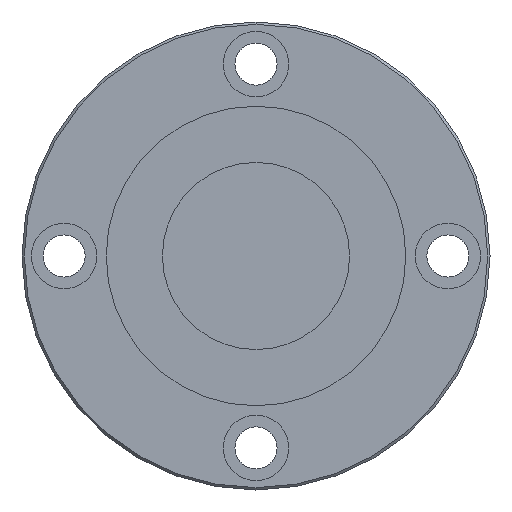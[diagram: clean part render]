
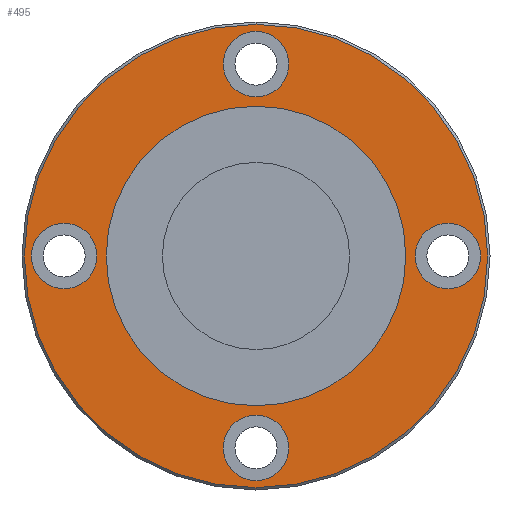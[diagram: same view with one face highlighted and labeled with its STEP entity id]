
A CAD part, left-side view. The second image highlights one B-rep face of the part: STEP entity #495.
In plain terms, the highlighted planar face has unit normal (-1, 0, 0).
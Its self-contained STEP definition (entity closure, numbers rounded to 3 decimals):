
#7 = ORIENTED_EDGE ( 'NONE', *, *, #1291, .F. ) ;
#46 = CIRCLE ( 'NONE', #1625, 32. ) ;
#73 = FACE_BOUND ( 'NONE', #1037, .T. ) ;
#77 = CIRCLE ( 'NONE', #1506, 7. ) ;
#123 = CARTESIAN_POINT ( 'NONE',  ( 0., 50., 0. ) ) ;
#192 = EDGE_CURVE ( 'NONE', #196, #490, #622, .T. ) ;
#196 = VERTEX_POINT ( 'NONE', #2513 ) ;
#224 = EDGE_CURVE ( 'NONE', #1407, #1573, #261, .T. ) ;
#252 = VERTEX_POINT ( 'NONE', #1559 ) ;
#261 = CIRCLE ( 'NONE', #1173, 7. ) ;
#282 = VERTEX_POINT ( 'NONE', #803 ) ;
#294 = ORIENTED_EDGE ( 'NONE', *, *, #1214, .F. ) ;
#304 = ORIENTED_EDGE ( 'NONE', *, *, #224, .F. ) ;
#330 = CARTESIAN_POINT ( 'NONE',  ( 0., 41., 0. ) ) ;
#370 = CARTESIAN_POINT ( 'NONE',  ( 0., 0., -41. ) ) ;
#407 = CARTESIAN_POINT ( 'NONE',  ( 0., 0., 49.5 ) ) ;
#414 = DIRECTION ( 'NONE',  ( 0., 1., 0. ) ) ;
#446 = DIRECTION ( 'NONE',  ( 0., 0., -1. ) ) ;
#472 = AXIS2_PLACEMENT_3D ( 'NONE', #2401, #1219, #414 ) ;
#490 = VERTEX_POINT ( 'NONE', #1292 ) ;
#495 = ADVANCED_FACE ( 'NONE', ( #692, #869, #1476, #1829, #73, #858 ), #1632, .F. ) ;
#508 = EDGE_CURVE ( 'NONE', #1590, #282, #834, .T. ) ;
#510 = CARTESIAN_POINT ( 'NONE',  ( 0., 0., 0. ) ) ;
#517 = CARTESIAN_POINT ( 'NONE',  ( 0., -41., 0. ) ) ;
#539 = DIRECTION ( 'NONE',  ( 0., -1., 0. ) ) ;
#554 = AXIS2_PLACEMENT_3D ( 'NONE', #517, #1273, #2103 ) ;
#565 = CARTESIAN_POINT ( 'NONE',  ( 0., 0., 0. ) ) ;
#589 = DIRECTION ( 'NONE',  ( -1., 0., 0. ) ) ;
#622 = CIRCLE ( 'NONE', #754, 32. ) ;
#655 = DIRECTION ( 'NONE',  ( -1., 0., 0. ) ) ;
#680 = CARTESIAN_POINT ( 'NONE',  ( 0., 0., -34. ) ) ;
#685 = DIRECTION ( 'NONE',  ( 0., 0., 1. ) ) ;
#692 = FACE_OUTER_BOUND ( 'NONE', #1740, .T. ) ;
#743 = ORIENTED_EDGE ( 'NONE', *, *, #1396, .F. ) ;
#754 = AXIS2_PLACEMENT_3D ( 'NONE', #510, #1159, #1491 ) ;
#763 = DIRECTION ( 'NONE',  ( 0., 1., 0. ) ) ;
#791 = DIRECTION ( 'NONE',  ( 0., -1., 0. ) ) ;
#803 = CARTESIAN_POINT ( 'NONE',  ( 0., 0., -49.5 ) ) ;
#822 = DIRECTION ( 'NONE',  ( 0., 0., -1. ) ) ;
#834 = CIRCLE ( 'NONE', #2278, 49.5 ) ;
#852 = ORIENTED_EDGE ( 'NONE', *, *, #1998, .F. ) ;
#858 = FACE_BOUND ( 'NONE', #2502, .T. ) ;
#868 = EDGE_CURVE ( 'NONE', #1855, #1177, #77, .T. ) ;
#869 = FACE_BOUND ( 'NONE', #2465, .T. ) ;
#894 = AXIS2_PLACEMENT_3D ( 'NONE', #1456, #2256, #1863 ) ;
#921 = DIRECTION ( 'NONE',  ( -1., 0., 0. ) ) ;
#943 = VERTEX_POINT ( 'NONE', #680 ) ;
#963 = DIRECTION ( 'NONE',  ( -1., 0., 0. ) ) ;
#1002 = CARTESIAN_POINT ( 'NONE',  ( 0., 41., -7. ) ) ;
#1011 = CARTESIAN_POINT ( 'NONE',  ( 0., 0., 0. ) ) ;
#1030 = AXIS2_PLACEMENT_3D ( 'NONE', #1655, #2052, #446 ) ;
#1037 = EDGE_LOOP ( 'NONE', ( #7, #743 ) ) ;
#1056 = CARTESIAN_POINT ( 'NONE',  ( 0., -41., 0. ) ) ;
#1070 = ORIENTED_EDGE ( 'NONE', *, *, #1597, .F. ) ;
#1093 = CARTESIAN_POINT ( 'NONE',  ( 0., 0., 34. ) ) ;
#1126 = DIRECTION ( 'NONE',  ( 0., 0., -1. ) ) ;
#1135 = ORIENTED_EDGE ( 'NONE', *, *, #1200, .F. ) ;
#1153 = EDGE_LOOP ( 'NONE', ( #1070, #294 ) ) ;
#1158 = CARTESIAN_POINT ( 'NONE',  ( 0., -41., 7. ) ) ;
#1159 = DIRECTION ( 'NONE',  ( -1., 0., 0. ) ) ;
#1173 = AXIS2_PLACEMENT_3D ( 'NONE', #2314, #1507, #539 ) ;
#1177 = VERTEX_POINT ( 'NONE', #1183 ) ;
#1183 = CARTESIAN_POINT ( 'NONE',  ( 0., -41., -7. ) ) ;
#1193 = AXIS2_PLACEMENT_3D ( 'NONE', #1369, #963, #791 ) ;
#1200 = EDGE_CURVE ( 'NONE', #1573, #1407, #2458, .T. ) ;
#1214 = EDGE_CURVE ( 'NONE', #252, #943, #2133, .T. ) ;
#1219 = DIRECTION ( 'NONE',  ( -1., 0., 0. ) ) ;
#1273 = DIRECTION ( 'NONE',  ( -1., 0., 0. ) ) ;
#1287 = EDGE_CURVE ( 'NONE', #1177, #1855, #1669, .T. ) ;
#1291 = EDGE_CURVE ( 'NONE', #1552, #1739, #2004, .T. ) ;
#1292 = CARTESIAN_POINT ( 'NONE',  ( 0., 0., -32. ) ) ;
#1343 = CIRCLE ( 'NONE', #472, 7. ) ;
#1369 = CARTESIAN_POINT ( 'NONE',  ( 0., 0., 41. ) ) ;
#1396 = EDGE_CURVE ( 'NONE', #1739, #1552, #2090, .T. ) ;
#1401 = DIRECTION ( 'NONE',  ( 0., 0., 1. ) ) ;
#1407 = VERTEX_POINT ( 'NONE', #1093 ) ;
#1423 = CIRCLE ( 'NONE', #1030, 49.5 ) ;
#1456 = CARTESIAN_POINT ( 'NONE',  ( 0., 41., 0. ) ) ;
#1476 = FACE_BOUND ( 'NONE', #1937, .T. ) ;
#1491 = DIRECTION ( 'NONE',  ( 0., 0., 1. ) ) ;
#1503 = AXIS2_PLACEMENT_3D ( 'NONE', #330, #1876, #685 ) ;
#1506 = AXIS2_PLACEMENT_3D ( 'NONE', #1056, #655, #822 ) ;
#1507 = DIRECTION ( 'NONE',  ( -1., 0., 0. ) ) ;
#1550 = CARTESIAN_POINT ( 'NONE',  ( 0., 41., 7. ) ) ;
#1552 = VERTEX_POINT ( 'NONE', #1550 ) ;
#1559 = CARTESIAN_POINT ( 'NONE',  ( 0., 0., -48. ) ) ;
#1573 = VERTEX_POINT ( 'NONE', #2515 ) ;
#1590 = VERTEX_POINT ( 'NONE', #407 ) ;
#1597 = EDGE_CURVE ( 'NONE', #943, #252, #1343, .T. ) ;
#1607 = AXIS2_PLACEMENT_3D ( 'NONE', #123, #2323, #1126 ) ;
#1625 = AXIS2_PLACEMENT_3D ( 'NONE', #1011, #1954, #1401 ) ;
#1632 = PLANE ( 'NONE',  #1607 ) ;
#1655 = CARTESIAN_POINT ( 'NONE',  ( 0., 0., 0. ) ) ;
#1669 = CIRCLE ( 'NONE', #554, 7. ) ;
#1739 = VERTEX_POINT ( 'NONE', #1002 ) ;
#1740 = EDGE_LOOP ( 'NONE', ( #2317, #2309 ) ) ;
#1829 = FACE_BOUND ( 'NONE', #1153, .T. ) ;
#1855 = VERTEX_POINT ( 'NONE', #1158 ) ;
#1863 = DIRECTION ( 'NONE',  ( 0., 0., 1. ) ) ;
#1876 = DIRECTION ( 'NONE',  ( -1., 0., 0. ) ) ;
#1881 = ORIENTED_EDGE ( 'NONE', *, *, #868, .F. ) ;
#1913 = DIRECTION ( 'NONE',  ( 0., 0., -1. ) ) ;
#1937 = EDGE_LOOP ( 'NONE', ( #1881, #2408 ) ) ;
#1954 = DIRECTION ( 'NONE',  ( -1., 0., 0. ) ) ;
#1998 = EDGE_CURVE ( 'NONE', #490, #196, #46, .T. ) ;
#2004 = CIRCLE ( 'NONE', #894, 7. ) ;
#2052 = DIRECTION ( 'NONE',  ( -1., 0., 0. ) ) ;
#2076 = ORIENTED_EDGE ( 'NONE', *, *, #192, .F. ) ;
#2090 = CIRCLE ( 'NONE', #1503, 7. ) ;
#2103 = DIRECTION ( 'NONE',  ( 0., 0., -1. ) ) ;
#2133 = CIRCLE ( 'NONE', #2180, 7. ) ;
#2178 = EDGE_CURVE ( 'NONE', #282, #1590, #1423, .T. ) ;
#2180 = AXIS2_PLACEMENT_3D ( 'NONE', #370, #589, #763 ) ;
#2256 = DIRECTION ( 'NONE',  ( -1., 0., 0. ) ) ;
#2278 = AXIS2_PLACEMENT_3D ( 'NONE', #565, #921, #1913 ) ;
#2309 = ORIENTED_EDGE ( 'NONE', *, *, #508, .T. ) ;
#2314 = CARTESIAN_POINT ( 'NONE',  ( 0., 0., 41. ) ) ;
#2317 = ORIENTED_EDGE ( 'NONE', *, *, #2178, .T. ) ;
#2323 = DIRECTION ( 'NONE',  ( 1., 0., 0. ) ) ;
#2401 = CARTESIAN_POINT ( 'NONE',  ( 0., 0., -41. ) ) ;
#2408 = ORIENTED_EDGE ( 'NONE', *, *, #1287, .F. ) ;
#2458 = CIRCLE ( 'NONE', #1193, 7. ) ;
#2465 = EDGE_LOOP ( 'NONE', ( #1135, #304 ) ) ;
#2502 = EDGE_LOOP ( 'NONE', ( #2076, #852 ) ) ;
#2513 = CARTESIAN_POINT ( 'NONE',  ( 0., 0., 32. ) ) ;
#2515 = CARTESIAN_POINT ( 'NONE',  ( 0., 0., 48. ) ) ;
